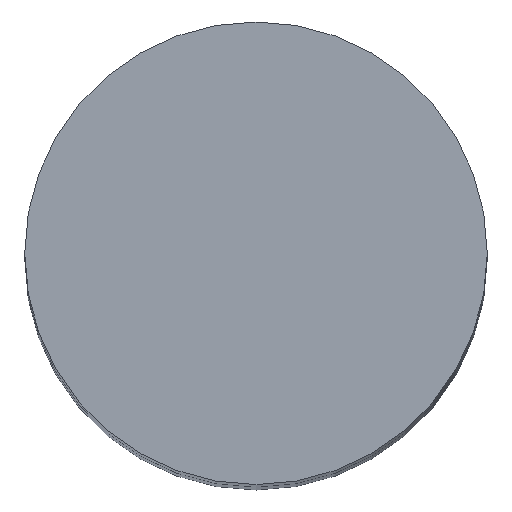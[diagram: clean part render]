
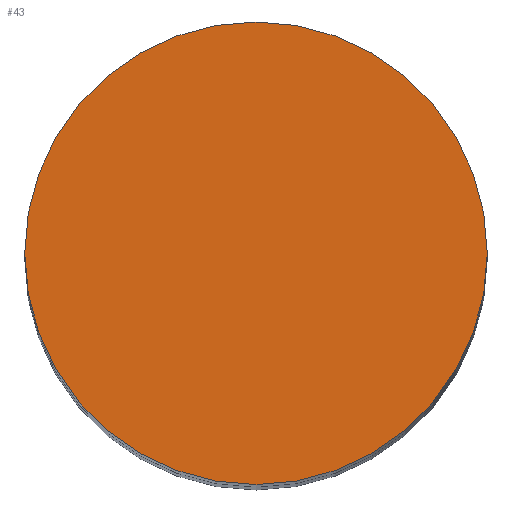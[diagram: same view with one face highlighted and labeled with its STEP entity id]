
A CAD part, top view. The second image highlights one B-rep face of the part: STEP entity #43.
In plain terms, the highlighted planar face has unit normal (0, 0, 1).
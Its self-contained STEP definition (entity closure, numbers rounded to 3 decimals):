
#43=ADVANCED_FACE('',(#85),#86,.F.);
#85=FACE_OUTER_BOUND('',#125,.T.);
#86=PLANE('',#126);
#125=EDGE_LOOP('',(#179,#180));
#126=AXIS2_PLACEMENT_3D('',#181,#182,#183);
#179=ORIENTED_EDGE('',*,*,#232,.T.);
#180=ORIENTED_EDGE('',*,*,#242,.T.);
#181=CARTESIAN_POINT('',(0.0,0.0,108.0));
#182=DIRECTION('',(0.0,0.0,-1.0));
#183=DIRECTION('',(-1.0,0.0,0.0));
#232=EDGE_CURVE('',#263,#267,#269,.T.);
#242=EDGE_CURVE('',#267,#263,#283,.T.);
#263=VERTEX_POINT('',#306);
#267=VERTEX_POINT('',#311);
#269=CIRCLE('',#314,8.0);
#283=CIRCLE('',#330,8.0);
#306=CARTESIAN_POINT('',(8.0,0.0,108.0));
#311=CARTESIAN_POINT('',(-8.0,0.,108.0));
#314=AXIS2_PLACEMENT_3D('',#353,#354,#355);
#330=AXIS2_PLACEMENT_3D('',#370,#371,#372);
#353=CARTESIAN_POINT('',(0.0,0.0,108.0));
#354=DIRECTION('',(0.0,0.0,1.0));
#355=DIRECTION('',(1.0,0.0,0.0));
#370=CARTESIAN_POINT('',(0.0,0.0,108.0));
#371=DIRECTION('',(0.0,0.0,1.0));
#372=DIRECTION('',(1.0,0.0,0.0));
